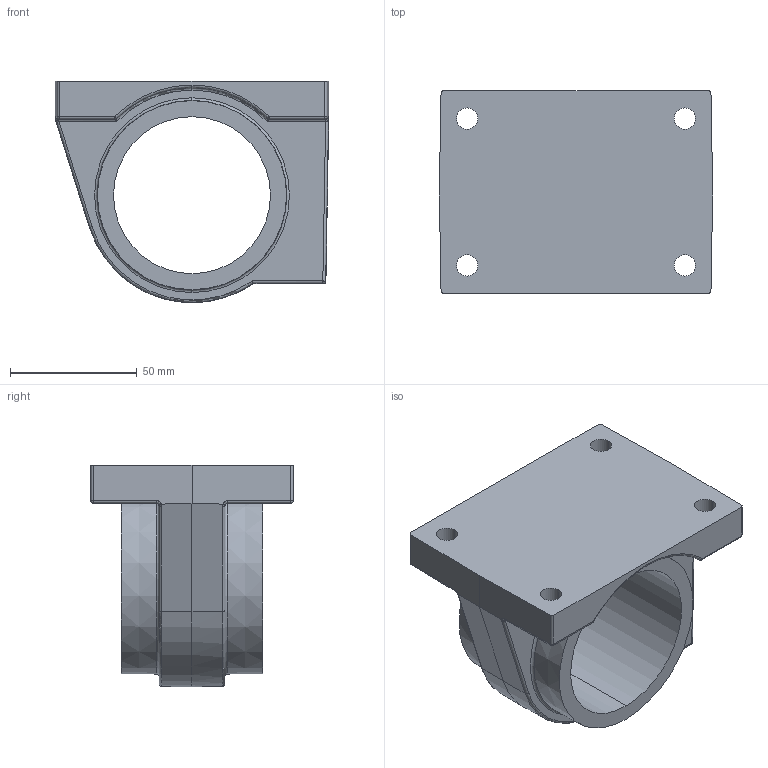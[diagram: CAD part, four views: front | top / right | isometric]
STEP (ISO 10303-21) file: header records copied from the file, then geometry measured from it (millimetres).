
FILE_DESCRIPTION (( 'STEP AP203' ), '1' );
FILE_NAME ('KGG65-40.step', '2020-03-10T15:22:40', ( '' ), ( '' ), 'SwSTEP 2.0', 'SolidWorks 2019', '' );
FILE_SCHEMA (( 'CONFIG_CONTROL_DESIGN' ));
Length unit declared in the file: millimetre
Products named in the file (2): KGG65-40
Bounding box: 107.98 x 80 x 87.5 mm (x, y, z)
Volume: 227855.4 mm3; surface area: 51549.9 mm2
Topology: 1 solids, 1 shells, 125 faces, 291 edges, 168 vertices
Faces by surface type: cylinder 55, plane 27, torus 14, bspline 12, sphere 10, cone 7
Entity records: 4013 total; most frequent: CARTESIAN_POINT 1067, DIRECTION 617, ORIENTED_EDGE 570, EDGE_CURVE 285, AXIS2_PLACEMENT_3D 254, VERTEX_POINT 168, EDGE_LOOP 141, CIRCLE 139
